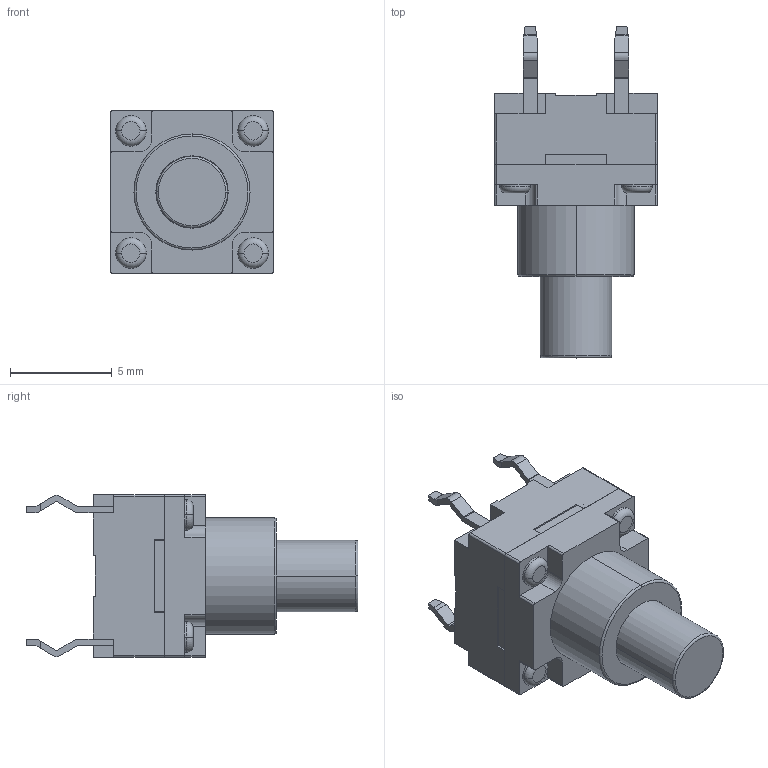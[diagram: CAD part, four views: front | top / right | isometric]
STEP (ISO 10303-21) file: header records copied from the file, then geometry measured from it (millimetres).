
FILE_DESCRIPTION((''),'2;1');
FILE_NAME('JQB8080F-C0651-01G-101_ASM','2026-07-09T10:38:26',('Admin'),(''),'CREO PARAMETRIC BY PTC INC, 2019224','CREO PARAMETRIC BY PTC INC, 2019224','');
FILE_SCHEMA(('AUTOMOTIVE_DESIGN { 1 0 10303 214 1 1 1 1 }'));
Length unit declared in the file: millimetre
Products named in the file (3): JQB8080F-C0651-01G-101_04; JQB8080F-C0651-01G-101_05; JQB8080F-C0651-01G-101_ASM
Assembly tree (2 placements, depth 2):
  JQB8080F-C0651-01G-101_ASM
    JQB8080F-C0651-01G-101_04
    JQB8080F-C0651-01G-101_05
Bounding box: 8 x 16.3 x 8 mm (x, y, z)
Volume: 457.1 mm3; surface area: 716.1 mm2
Topology: 2 solids, 2 shells, 236 faces, 648 edges, 440 vertices
Faces by surface type: plane 150, cylinder 74, torus 12
Entity records: 10554 total; most frequent: CARTESIAN_POINT 1358, DIRECTION 1284, ORIENTED_EDGE 1276, PRESENTATION_STYLE_ASSIGNMENT 729, STYLED_ITEM 653, CURVE_STYLE 651, EDGE_CURVE 638, VECTOR 474
